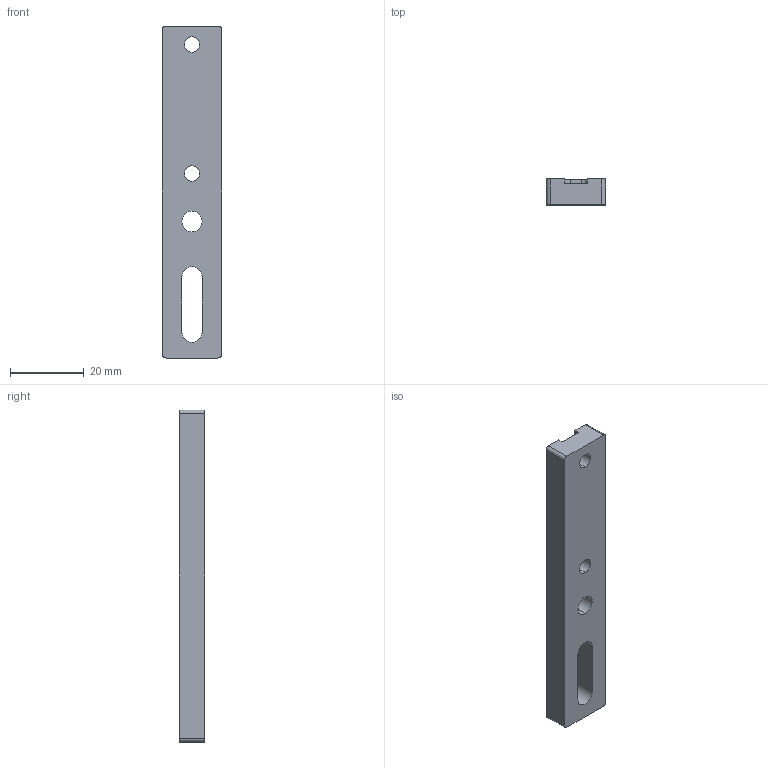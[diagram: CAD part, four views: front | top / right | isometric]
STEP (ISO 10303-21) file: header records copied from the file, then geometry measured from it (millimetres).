
FILE_DESCRIPTION (( 'STEP AP214' ), '1' );
FILE_NAME ('SMBE7-25M5.STEP', '2019-11-19T02:42:37', ( '微软用户' ), ( '微软中国' ), 'SwSTEP 2.0', 'SolidWorks 2016', '' );
FILE_SCHEMA (( 'AUTOMOTIVE_DESIGN' ));
Length unit declared in the file: millimetre
Products named in the file (1): SMBE7-25M5
Bounding box: 16 x 7 x 90 mm (x, y, z)
Volume: 8636.4 mm3; surface area: 4755.1 mm2
Topology: 1 solids, 1 shells, 27 faces, 75 edges, 50 vertices
Faces by surface type: cylinder 15, plane 12
Entity records: 973 total; most frequent: DIRECTION 161, CARTESIAN_POINT 153, ORIENTED_EDGE 150, EDGE_CURVE 75, AXIS2_PLACEMENT_3D 58, VERTEX_POINT 50, LINE 45, VECTOR 45
